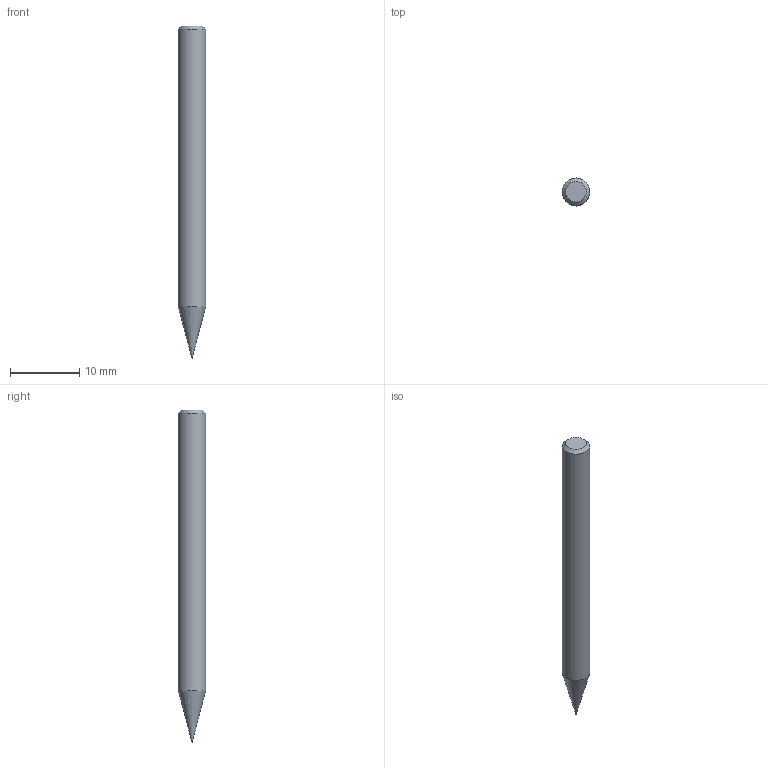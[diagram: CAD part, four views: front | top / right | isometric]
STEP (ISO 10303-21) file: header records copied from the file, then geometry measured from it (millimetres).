
FILE_DESCRIPTION((''),'2;1');
FILE_NAME('C:\Users\nsx150\AppData\Local\Temp\Mastercam 2021\ZQ9VQTH2U1\TEMP.step','2021-10-21T11:06:11',(''),(''),'STEP Write','Mastercam 2021 ... CNC Software, Inc.','');
FILE_SCHEMA(('AUTOMOTIVE_DESIGN'));
Length unit declared in the file: millimetre
Products named in the file (1): None
Bounding box: 4 x 4 x 48 mm (x, y, z)
Volume: 539.6 mm3; surface area: 567 mm2
Topology: 2 solids, 2 shells, 8 faces, 12 edges, 7 vertices
Faces by surface type: plane 3, cone 2, cylinder 2, sphere 1
Full cylindrical faces by diameter (mm): 0.14 x1, 4 x1
Entity records: 190 total; most frequent: DIRECTION 32, CARTESIAN_POINT 22, AXIS2_PLACEMENT_3D 16, ORIENTED_EDGE 12, EDGE_LOOP 12, STYLED_ITEM 11, ADVANCED_FACE 8, VERTEX_POINT 6
